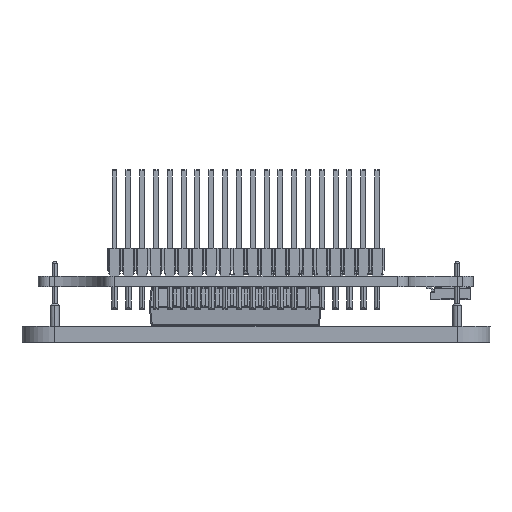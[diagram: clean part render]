
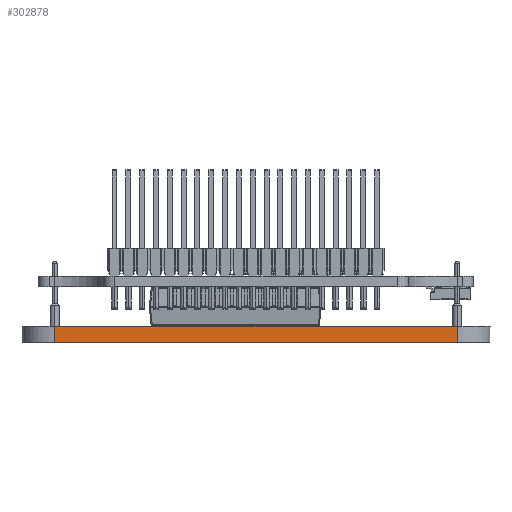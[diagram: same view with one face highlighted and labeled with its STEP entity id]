
A CAD part, left-side view. The second image highlights one B-rep face of the part: STEP entity #302878.
In plain terms, the highlighted planar face has unit normal (-1, 0, 0).
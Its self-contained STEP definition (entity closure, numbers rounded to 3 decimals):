
#300924 = PLANE('',#300925);
#300925 = AXIS2_PLACEMENT_3D('',#300926,#300927,#300928);
#300926 = CARTESIAN_POINT('',(0.,1.5,0.));
#300927 = DIRECTION('',(0.,1.,0.));
#300928 = DIRECTION('',(0.,0.,1.));
#301040 = PLANE('',#301041);
#301041 = AXIS2_PLACEMENT_3D('',#301042,#301043,#301044);
#301042 = CARTESIAN_POINT('',(0.,0.,0.));
#301043 = DIRECTION('',(0.,1.,0.));
#301044 = DIRECTION('',(0.,0.,1.));
#302845 = CYLINDRICAL_SURFACE('',#302846,3.);
#302846 = AXIS2_PLACEMENT_3D('',#302847,#302848,#302849);
#302847 = CARTESIAN_POINT('',(3.,1.5,-40.));
#302848 = DIRECTION('',(0.,-1.,0.));
#302849 = DIRECTION('',(0.,0.,-1.));
#302878 = ADVANCED_FACE('',(#302879),#302893,.F.);
#302879 = FACE_BOUND('',#302880,.T.);
#302880 = EDGE_LOOP('',(#302881,#302911,#302961,#302984));
#302881 = ORIENTED_EDGE('',*,*,#302882,.T.);
#302882 = EDGE_CURVE('',#302883,#302885,#302887,.T.);
#302883 = VERTEX_POINT('',#302884);
#302884 = CARTESIAN_POINT('',(0.,0.,-40.));
#302885 = VERTEX_POINT('',#302886);
#302886 = CARTESIAN_POINT('',(0.,0.,-3.));
#302887 = SURFACE_CURVE('',#302888,(#302892,#302904),.PCURVE_S1.);
#302888 = LINE('',#302889,#302890);
#302889 = CARTESIAN_POINT('',(0.,0.,-43.));
#302890 = VECTOR('',#302891,1.);
#302891 = DIRECTION('',(0.,0.,1.));
#302892 = PCURVE('',#302893,#302898);
#302893 = PLANE('',#302894);
#302894 = AXIS2_PLACEMENT_3D('',#302895,#302896,#302897);
#302895 = CARTESIAN_POINT('',(0.,1.5,-43.));
#302896 = DIRECTION('',(1.,0.,0.));
#302897 = DIRECTION('',(0.,0.,-1.));
#302898 = DEFINITIONAL_REPRESENTATION('',(#302899),#302903);
#302899 = LINE('',#302900,#302901);
#302900 = CARTESIAN_POINT('',(0.,-1.5));
#302901 = VECTOR('',#302902,1.);
#302902 = DIRECTION('',(-1.,0.));
#302903 = ( GEOMETRIC_REPRESENTATION_CONTEXT(2) 
PARAMETRIC_REPRESENTATION_CONTEXT() REPRESENTATION_CONTEXT('2D SPACE',''
  ) );
#302904 = PCURVE('',#301040,#302905);
#302905 = DEFINITIONAL_REPRESENTATION('',(#302906),#302910);
#302906 = LINE('',#302907,#302908);
#302907 = CARTESIAN_POINT('',(-43.,0.));
#302908 = VECTOR('',#302909,1.);
#302909 = DIRECTION('',(1.,0.));
#302910 = ( GEOMETRIC_REPRESENTATION_CONTEXT(2) 
PARAMETRIC_REPRESENTATION_CONTEXT() REPRESENTATION_CONTEXT('2D SPACE',''
  ) );
#302911 = ORIENTED_EDGE('',*,*,#302912,.T.);
#302912 = EDGE_CURVE('',#302885,#302913,#302915,.T.);
#302913 = VERTEX_POINT('',#302914);
#302914 = CARTESIAN_POINT('',(0.,1.5,-3.));
#302915 = SURFACE_CURVE('',#302916,(#302920,#302927),.PCURVE_S1.);
#302916 = LINE('',#302917,#302918);
#302917 = CARTESIAN_POINT('',(0.,1.5,-3.));
#302918 = VECTOR('',#302919,1.);
#302919 = DIRECTION('',(0.,1.,0.));
#302920 = PCURVE('',#302893,#302921);
#302921 = DEFINITIONAL_REPRESENTATION('',(#302922),#302926);
#302922 = LINE('',#302923,#302924);
#302923 = CARTESIAN_POINT('',(-40.,0.));
#302924 = VECTOR('',#302925,1.);
#302925 = DIRECTION('',(0.,1.));
#302926 = ( GEOMETRIC_REPRESENTATION_CONTEXT(2) 
PARAMETRIC_REPRESENTATION_CONTEXT() REPRESENTATION_CONTEXT('2D SPACE',''
  ) );
#302927 = PCURVE('',#302928,#302933);
#302928 = CYLINDRICAL_SURFACE('',#302929,3.);
#302929 = AXIS2_PLACEMENT_3D('',#302930,#302931,#302932);
#302930 = CARTESIAN_POINT('',(3.,1.5,-3.));
#302931 = DIRECTION('',(0.,-1.,0.));
#302932 = DIRECTION('',(0.,0.,-1.));
#302933 = DEFINITIONAL_REPRESENTATION('',(#302934),#302960);
#302934 = B_SPLINE_CURVE_WITH_KNOTS('',3,(#302935,#302936,#302937,
    #302938,#302939,#302940,#302941,#302942,#302943,#302944,#302945,
    #302946,#302947,#302948,#302949,#302950,#302951,#302952,#302953,
    #302954,#302955,#302956,#302957,#302958,#302959),.UNSPECIFIED.,.F.,
  .F.,(4,1,1,1,1,1,1,1,1,1,1,1,1,1,1,1,1,1,1,1,1,1,4),(-1.5,
    -1.432,-1.364,-1.295,-1.227,
    -1.159,-1.091,-1.023,-0.955,
    -0.886,-0.818,-0.75,-0.682,
    -0.614,-0.545,-0.477,-0.409,
    -0.341,-0.273,-0.205,-0.136,
    -0.068,0.),.UNSPECIFIED.);
#302935 = CARTESIAN_POINT('',(4.712,1.5));
#302936 = CARTESIAN_POINT('',(4.712,1.477));
#302937 = CARTESIAN_POINT('',(4.712,1.432));
#302938 = CARTESIAN_POINT('',(4.712,1.364));
#302939 = CARTESIAN_POINT('',(4.712,1.295));
#302940 = CARTESIAN_POINT('',(4.712,1.227));
#302941 = CARTESIAN_POINT('',(4.712,1.159));
#302942 = CARTESIAN_POINT('',(4.712,1.091));
#302943 = CARTESIAN_POINT('',(4.712,1.023));
#302944 = CARTESIAN_POINT('',(4.712,0.955));
#302945 = CARTESIAN_POINT('',(4.712,0.886));
#302946 = CARTESIAN_POINT('',(4.712,0.818));
#302947 = CARTESIAN_POINT('',(4.712,0.75));
#302948 = CARTESIAN_POINT('',(4.712,0.682));
#302949 = CARTESIAN_POINT('',(4.712,0.614));
#302950 = CARTESIAN_POINT('',(4.712,0.545));
#302951 = CARTESIAN_POINT('',(4.712,0.477));
#302952 = CARTESIAN_POINT('',(4.712,0.409));
#302953 = CARTESIAN_POINT('',(4.712,0.341));
#302954 = CARTESIAN_POINT('',(4.712,0.273));
#302955 = CARTESIAN_POINT('',(4.712,0.205));
#302956 = CARTESIAN_POINT('',(4.712,0.136));
#302957 = CARTESIAN_POINT('',(4.712,0.068));
#302958 = CARTESIAN_POINT('',(4.712,0.023));
#302959 = CARTESIAN_POINT('',(4.712,0.));
#302960 = ( GEOMETRIC_REPRESENTATION_CONTEXT(2) 
PARAMETRIC_REPRESENTATION_CONTEXT() REPRESENTATION_CONTEXT('2D SPACE',''
  ) );
#302961 = ORIENTED_EDGE('',*,*,#302962,.F.);
#302962 = EDGE_CURVE('',#302963,#302913,#302965,.T.);
#302963 = VERTEX_POINT('',#302964);
#302964 = CARTESIAN_POINT('',(0.,1.5,-40.));
#302965 = SURFACE_CURVE('',#302966,(#302970,#302977),.PCURVE_S1.);
#302966 = LINE('',#302967,#302968);
#302967 = CARTESIAN_POINT('',(0.,1.5,-43.));
#302968 = VECTOR('',#302969,1.);
#302969 = DIRECTION('',(0.,0.,1.));
#302970 = PCURVE('',#302893,#302971);
#302971 = DEFINITIONAL_REPRESENTATION('',(#302972),#302976);
#302972 = LINE('',#302973,#302974);
#302973 = CARTESIAN_POINT('',(0.,0.));
#302974 = VECTOR('',#302975,1.);
#302975 = DIRECTION('',(-1.,0.));
#302976 = ( GEOMETRIC_REPRESENTATION_CONTEXT(2) 
PARAMETRIC_REPRESENTATION_CONTEXT() REPRESENTATION_CONTEXT('2D SPACE',''
  ) );
#302977 = PCURVE('',#300924,#302978);
#302978 = DEFINITIONAL_REPRESENTATION('',(#302979),#302983);
#302979 = LINE('',#302980,#302981);
#302980 = CARTESIAN_POINT('',(-43.,0.));
#302981 = VECTOR('',#302982,1.);
#302982 = DIRECTION('',(1.,0.));
#302983 = ( GEOMETRIC_REPRESENTATION_CONTEXT(2) 
PARAMETRIC_REPRESENTATION_CONTEXT() REPRESENTATION_CONTEXT('2D SPACE',''
  ) );
#302984 = ORIENTED_EDGE('',*,*,#302985,.T.);
#302985 = EDGE_CURVE('',#302963,#302883,#302986,.T.);
#302986 = SURFACE_CURVE('',#302987,(#302991,#302998),.PCURVE_S1.);
#302987 = LINE('',#302988,#302989);
#302988 = CARTESIAN_POINT('',(0.,1.5,-40.));
#302989 = VECTOR('',#302990,1.);
#302990 = DIRECTION('',(0.,-1.,0.));
#302991 = PCURVE('',#302893,#302992);
#302992 = DEFINITIONAL_REPRESENTATION('',(#302993),#302997);
#302993 = LINE('',#302994,#302995);
#302994 = CARTESIAN_POINT('',(-3.,0.));
#302995 = VECTOR('',#302996,1.);
#302996 = DIRECTION('',(0.,-1.));
#302997 = ( GEOMETRIC_REPRESENTATION_CONTEXT(2) 
PARAMETRIC_REPRESENTATION_CONTEXT() REPRESENTATION_CONTEXT('2D SPACE',''
  ) );
#302998 = PCURVE('',#302845,#302999);
#302999 = DEFINITIONAL_REPRESENTATION('',(#303000),#303026);
#303000 = B_SPLINE_CURVE_WITH_KNOTS('',3,(#303001,#303002,#303003,
    #303004,#303005,#303006,#303007,#303008,#303009,#303010,#303011,
    #303012,#303013,#303014,#303015,#303016,#303017,#303018,#303019,
    #303020,#303021,#303022,#303023,#303024,#303025),.UNSPECIFIED.,.F.,
  .F.,(4,1,1,1,1,1,1,1,1,1,1,1,1,1,1,1,1,1,1,1,1,1,4),(0.,
    0.068,0.136,0.205,0.273,
    0.341,0.409,0.477,0.545,
    0.614,0.682,0.75,0.818,0.886,
    0.955,1.023,1.091,1.159,
    1.227,1.295,1.364,1.432,1.5),
  .QUASI_UNIFORM_KNOTS.);
#303001 = CARTESIAN_POINT('',(4.712,0.));
#303002 = CARTESIAN_POINT('',(4.712,0.023));
#303003 = CARTESIAN_POINT('',(4.712,0.068));
#303004 = CARTESIAN_POINT('',(4.712,0.136));
#303005 = CARTESIAN_POINT('',(4.712,0.205));
#303006 = CARTESIAN_POINT('',(4.712,0.273));
#303007 = CARTESIAN_POINT('',(4.712,0.341));
#303008 = CARTESIAN_POINT('',(4.712,0.409));
#303009 = CARTESIAN_POINT('',(4.712,0.477));
#303010 = CARTESIAN_POINT('',(4.712,0.545));
#303011 = CARTESIAN_POINT('',(4.712,0.614));
#303012 = CARTESIAN_POINT('',(4.712,0.682));
#303013 = CARTESIAN_POINT('',(4.712,0.75));
#303014 = CARTESIAN_POINT('',(4.712,0.818));
#303015 = CARTESIAN_POINT('',(4.712,0.886));
#303016 = CARTESIAN_POINT('',(4.712,0.955));
#303017 = CARTESIAN_POINT('',(4.712,1.023));
#303018 = CARTESIAN_POINT('',(4.712,1.091));
#303019 = CARTESIAN_POINT('',(4.712,1.159));
#303020 = CARTESIAN_POINT('',(4.712,1.227));
#303021 = CARTESIAN_POINT('',(4.712,1.295));
#303022 = CARTESIAN_POINT('',(4.712,1.364));
#303023 = CARTESIAN_POINT('',(4.712,1.432));
#303024 = CARTESIAN_POINT('',(4.712,1.477));
#303025 = CARTESIAN_POINT('',(4.712,1.5));
#303026 = ( GEOMETRIC_REPRESENTATION_CONTEXT(2) 
PARAMETRIC_REPRESENTATION_CONTEXT() REPRESENTATION_CONTEXT('2D SPACE',''
  ) );
